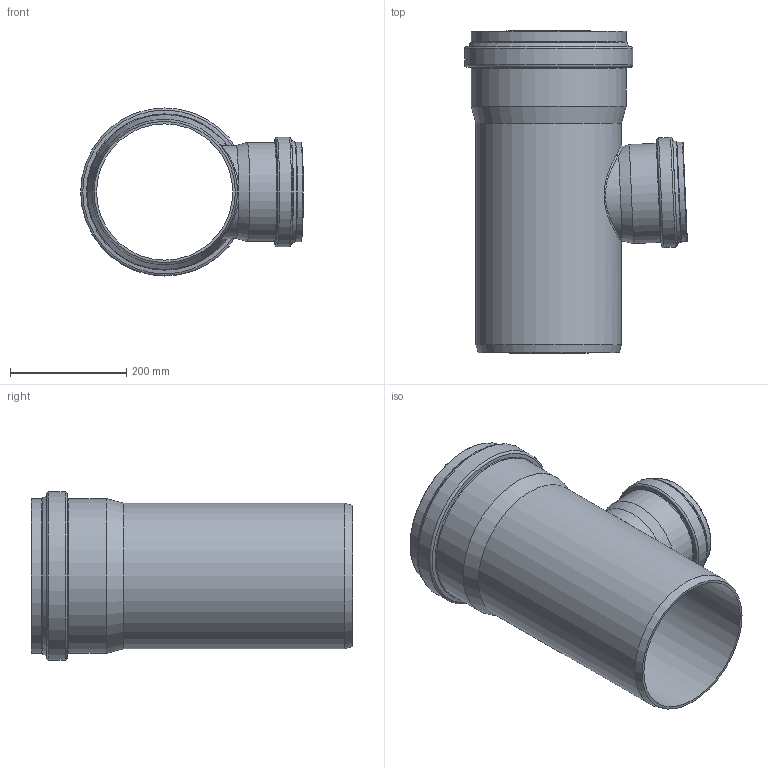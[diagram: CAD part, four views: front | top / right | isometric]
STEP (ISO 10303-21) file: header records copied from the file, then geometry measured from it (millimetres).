
FILE_DESCRIPTION(/* description */ (''),/* implementation_level */ '2;1');
FILE_NAME(/* name */ '774750z.stp',/* time_stamp */ '2025-09-16T12:58:39+02:00',/* author */ ('corinna'),/* organization */ (''),/* preprocessor_version */ 'ST-DEVELOPER v20',/* originating_system */ 'Autodesk Inventor 2024',/* authorisation */ '');
FILE_SCHEMA (('AUTOMOTIVE_DESIGN { 1 0 10303 214 3 1 1 }'));
Length unit declared in the file: millimetre
Products named in the file (1): 774750z
Bounding box: 382.96 x 553.4 x 289 mm (x, y, z)
Volume: 3655079.5 mm3; surface area: 1008073.8 mm2
Topology: 1 solids, 1 shells, 75 faces, 208 edges, 136 vertices
Faces by surface type: torus 28, cone 21, cylinder 19, plane 5, bspline 2
Full cylindrical faces by diameter (mm): 149.8 x1, 161 x1, 161.3 x2, 170.4 x1, 170.7 x1, 179.4 x1, 188.8 x1, 234.3 x1, 250.3 x1, 251.7 x1, 252.1 x2, 266.1 x1, 266.5 x1, 274.6 x1, 289 x1
Entity records: 3221 total; most frequent: CARTESIAN_POINT 1138, DIRECTION 492, ORIENTED_EDGE 416, AXIS2_PLACEMENT_3D 226, EDGE_CURVE 208, CIRCLE 152, VERTEX_POINT 136, EDGE_LOOP 80
